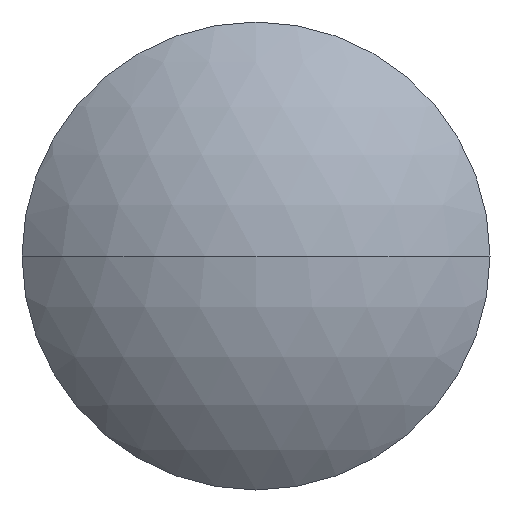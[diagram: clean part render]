
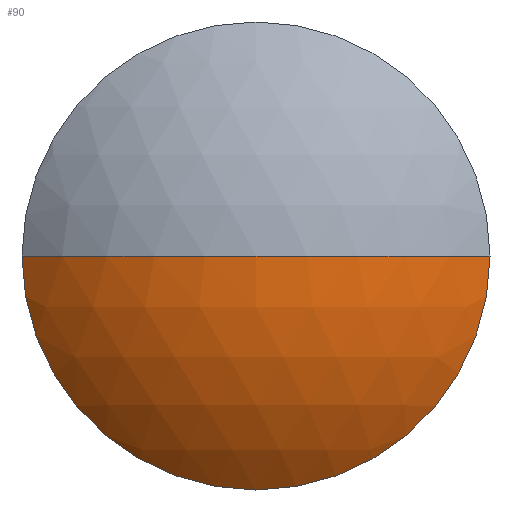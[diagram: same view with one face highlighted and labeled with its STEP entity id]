
A CAD part, left-side view. The second image highlights one B-rep face of the part: STEP entity #90.
In plain terms, the highlighted spherical face has radius 35.446 mm.
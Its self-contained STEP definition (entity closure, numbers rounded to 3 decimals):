
#1 = ORIENTED_EDGE ( 'NONE', *, *, #57, .T. ) ;
#8 = AXIS2_PLACEMENT_3D ( 'NONE', #109, #223, #247 ) ;
#29 = DIRECTION ( 'NONE',  ( 0., 1., 0. ) ) ;
#30 = EDGE_CURVE ( 'NONE', #101, #161, #173, .T. ) ;
#31 = SPHERICAL_SURFACE ( 'NONE', #8, 35.446 ) ;
#57 = EDGE_CURVE ( 'NONE', #161, #166, #96, .T. ) ;
#58 = DIRECTION ( 'NONE',  ( 0., 0., 1. ) ) ;
#62 = CARTESIAN_POINT ( 'NONE',  ( -2.5, 0., -24.15 ) ) ;
#70 = CIRCLE ( 'NONE', #114, 35.446 ) ;
#82 = DIRECTION ( 'NONE',  ( -1., 0., 0. ) ) ;
#89 = DIRECTION ( 'NONE',  ( 1., 0., 0. ) ) ;
#90 = ADVANCED_FACE ( 'NONE', ( #191 ), #31, .T. ) ;
#92 = CARTESIAN_POINT ( 'NONE',  ( 23.446, 0., 0. ) ) ;
#95 = EDGE_CURVE ( 'NONE', #166, #106, #194, .T. ) ;
#96 = CIRCLE ( 'NONE', #265, 24.15 ) ;
#101 = VERTEX_POINT ( 'NONE', #276 ) ;
#106 = VERTEX_POINT ( 'NONE', #137 ) ;
#109 = CARTESIAN_POINT ( 'NONE',  ( 23.446, 0., 0. ) ) ;
#114 = AXIS2_PLACEMENT_3D ( 'NONE', #92, #205, #89 ) ;
#137 = CARTESIAN_POINT ( 'NONE',  ( -12., 0., 0. ) ) ;
#139 = CARTESIAN_POINT ( 'NONE',  ( 23.446, 0., 0. ) ) ;
#158 = ORIENTED_EDGE ( 'NONE', *, *, #335, .F. ) ;
#161 = VERTEX_POINT ( 'NONE', #62 ) ;
#166 = VERTEX_POINT ( 'NONE', #306 ) ;
#173 = CIRCLE ( 'NONE', #328, 24.15 ) ;
#191 = FACE_OUTER_BOUND ( 'NONE', #220, .T. ) ;
#194 = CIRCLE ( 'NONE', #207, 35.446 ) ;
#195 = DIRECTION ( 'NONE',  ( -1., 0., 0. ) ) ;
#205 = DIRECTION ( 'NONE',  ( 0., 0., 1. ) ) ;
#207 = AXIS2_PLACEMENT_3D ( 'NONE', #139, #297, #29 ) ;
#220 = EDGE_LOOP ( 'NONE', ( #349, #1, #296, #158 ) ) ;
#223 = DIRECTION ( 'NONE',  ( 0., 0., -1. ) ) ;
#245 = DIRECTION ( 'NONE',  ( 0., 0., 1. ) ) ;
#247 = DIRECTION ( 'NONE',  ( 0., 1., 0. ) ) ;
#250 = CARTESIAN_POINT ( 'NONE',  ( -2.5, 0., 0. ) ) ;
#265 = AXIS2_PLACEMENT_3D ( 'NONE', #303, #195, #58 ) ;
#276 = CARTESIAN_POINT ( 'NONE',  ( -2.5, 24.15, 0. ) ) ;
#296 = ORIENTED_EDGE ( 'NONE', *, *, #95, .T. ) ;
#297 = DIRECTION ( 'NONE',  ( 0., 0., -1. ) ) ;
#303 = CARTESIAN_POINT ( 'NONE',  ( -2.5, 0., 0. ) ) ;
#306 = CARTESIAN_POINT ( 'NONE',  ( -2.5, -24.15, 0. ) ) ;
#328 = AXIS2_PLACEMENT_3D ( 'NONE', #250, #82, #245 ) ;
#335 = EDGE_CURVE ( 'NONE', #101, #106, #70, .T. ) ;
#349 = ORIENTED_EDGE ( 'NONE', *, *, #30, .T. ) ;
